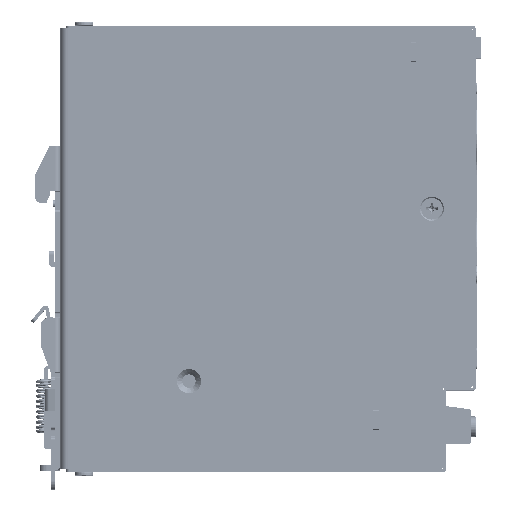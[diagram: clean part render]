
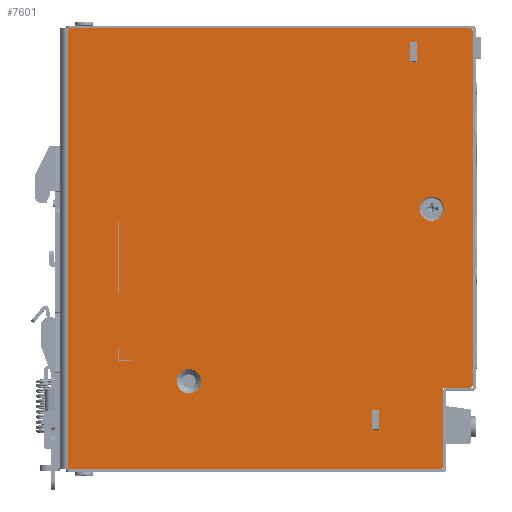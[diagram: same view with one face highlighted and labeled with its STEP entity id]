
A CAD part, top view. The second image highlights one B-rep face of the part: STEP entity #7601.
In plain terms, the highlighted planar face has unit normal (0, 0, 1).
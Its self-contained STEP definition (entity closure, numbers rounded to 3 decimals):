
#2546=DIRECTION('',(0.,-1.,0.));
#2547=VECTOR('',#2546,122.4);
#2548=CARTESIAN_POINT('',(0.5,61.2,20.));
#2549=LINE('',#2548,#2547);
#2564=CARTESIAN_POINT('',(112.1,60.2,20.));
#2565=DIRECTION('',(0.,0.,1.));
#2566=DIRECTION('',(1.,0.,0.));
#2567=AXIS2_PLACEMENT_3D('',#2564,#2565,#2566);
#2569=DIRECTION('',(0.,1.,0.));
#2570=VECTOR('',#2569,97.8);
#2571=CARTESIAN_POINT('',(113.1,-37.6,20.));
#2572=LINE('',#2571,#2570);
#2573=CARTESIAN_POINT('',(112.1,-37.6,20.));
#2574=DIRECTION('',(0.,0.,1.));
#2575=DIRECTION('',(0.,-1.,0.));
#2576=AXIS2_PLACEMENT_3D('',#2573,#2574,#2575);
#2578=DIRECTION('',(-1.,0.,0.));
#2579=VECTOR('',#2578,7.2);
#2580=CARTESIAN_POINT('',(112.1,-38.6,20.));
#2581=LINE('',#2580,#2579);
#2582=DIRECTION('',(0.,1.,0.));
#2583=VECTOR('',#2582,21.6);
#2584=CARTESIAN_POINT('',(104.9,-60.2,20.));
#2585=LINE('',#2584,#2583);
#2586=CARTESIAN_POINT('',(103.9,-60.2,20.));
#2587=DIRECTION('',(0.,0.,1.));
#2588=DIRECTION('',(0.,-1.,0.));
#2589=AXIS2_PLACEMENT_3D('',#2586,#2587,#2588);
#2591=DIRECTION('',(1.,0.,0.));
#2592=VECTOR('',#2591,103.4);
#2593=CARTESIAN_POINT('',(0.5,-61.2,20.));
#2594=LINE('',#2593,#2592);
#2595=DIRECTION('',(-1.,0.,0.));
#2596=VECTOR('',#2595,111.6);
#2597=CARTESIAN_POINT('',(112.1,61.2,20.));
#2598=LINE('',#2597,#2596);
#2599=CARTESIAN_POINT('',(101.7,11.1,20.));
#2600=DIRECTION('',(0.,0.,1.));
#2601=DIRECTION('',(-1.,0.,0.));
#2602=AXIS2_PLACEMENT_3D('',#2599,#2600,#2601);
#2604=CARTESIAN_POINT('',(101.7,11.1,20.));
#2605=DIRECTION('',(0.,0.,1.));
#2606=DIRECTION('',(1.,0.,0.));
#2607=AXIS2_PLACEMENT_3D('',#2604,#2605,#2606);
#2609=DIRECTION('',(0.,-1.,0.));
#2610=VECTOR('',#2609,5.6);
#2611=CARTESIAN_POINT('',(97.55,57.5,20.));
#2612=LINE('',#2611,#2610);
#2613=DIRECTION('',(1.,0.,0.));
#2614=VECTOR('',#2613,1.9);
#2615=CARTESIAN_POINT('',(95.65,57.5,20.));
#2616=LINE('',#2615,#2614);
#2617=DIRECTION('',(0.,1.,0.));
#2618=VECTOR('',#2617,5.6);
#2619=CARTESIAN_POINT('',(95.65,51.9,20.));
#2620=LINE('',#2619,#2618);
#2621=DIRECTION('',(-1.,0.,0.));
#2622=VECTOR('',#2621,1.9);
#2623=CARTESIAN_POINT('',(97.55,51.9,20.));
#2624=LINE('',#2623,#2622);
#2625=DIRECTION('',(0.,-1.,0.));
#2626=VECTOR('',#2625,5.6);
#2627=CARTESIAN_POINT('',(87.05,-44.8,20.));
#2628=LINE('',#2627,#2626);
#2629=DIRECTION('',(1.,0.,0.));
#2630=VECTOR('',#2629,1.9);
#2631=CARTESIAN_POINT('',(85.15,-44.8,20.));
#2632=LINE('',#2631,#2630);
#2633=DIRECTION('',(0.,1.,0.));
#2634=VECTOR('',#2633,5.6);
#2635=CARTESIAN_POINT('',(85.15,-50.4,20.));
#2636=LINE('',#2635,#2634);
#2637=DIRECTION('',(-1.,0.,0.));
#2638=VECTOR('',#2637,1.9);
#2639=CARTESIAN_POINT('',(87.05,-50.4,20.));
#2640=LINE('',#2639,#2638);
#2641=CARTESIAN_POINT('',(34.2,-36.8,20.));
#2642=DIRECTION('',(0.,0.,1.));
#2643=DIRECTION('',(-1.,0.,0.));
#2644=AXIS2_PLACEMENT_3D('',#2641,#2642,#2643);
#2646=CARTESIAN_POINT('',(34.2,-36.8,20.));
#2647=DIRECTION('',(0.,0.,1.));
#2648=DIRECTION('',(1.,0.,0.));
#2649=AXIS2_PLACEMENT_3D('',#2646,#2647,#2648);
#2651=DIRECTION('',(-1.,0.,0.));
#2652=VECTOR('',#2651,0.2);
#2653=CARTESIAN_POINT('',(14.7,7.3,20.));
#2654=LINE('',#2653,#2652);
#2655=DIRECTION('',(0.,-1.,0.));
#2656=VECTOR('',#2655,20.);
#2657=CARTESIAN_POINT('',(14.5,7.3,20.));
#2658=LINE('',#2657,#2656);
#2659=DIRECTION('',(1.,0.,0.));
#2660=VECTOR('',#2659,0.2);
#2661=CARTESIAN_POINT('',(14.5,-12.7,20.));
#2662=LINE('',#2661,#2660);
#2663=DIRECTION('',(0.,1.,0.));
#2664=VECTOR('',#2663,20.);
#2665=CARTESIAN_POINT('',(14.7,-12.7,20.));
#2666=LINE('',#2665,#2664);
#2667=DIRECTION('',(0.,1.,0.));
#2668=VECTOR('',#2667,0.2);
#2669=CARTESIAN_POINT('',(18.,-31.2,20.));
#2670=LINE('',#2669,#2668);
#2671=DIRECTION('',(-1.,0.,0.));
#2672=VECTOR('',#2671,3.3);
#2673=CARTESIAN_POINT('',(18.,-31.,20.));
#2674=LINE('',#2673,#2672);
#2675=DIRECTION('',(0.,1.,0.));
#2676=VECTOR('',#2675,3.3);
#2677=CARTESIAN_POINT('',(14.7,-31.,20.));
#2678=LINE('',#2677,#2676);
#2679=DIRECTION('',(-1.,0.,0.));
#2680=VECTOR('',#2679,0.2);
#2681=CARTESIAN_POINT('',(14.7,-27.7,20.));
#2682=LINE('',#2681,#2680);
#2683=DIRECTION('',(0.,-1.,0.));
#2684=VECTOR('',#2683,3.5);
#2685=CARTESIAN_POINT('',(14.5,-27.7,20.));
#2686=LINE('',#2685,#2684);
#2687=DIRECTION('',(1.,0.,0.));
#2688=VECTOR('',#2687,3.5);
#2689=CARTESIAN_POINT('',(14.5,-31.2,20.));
#2690=LINE('',#2689,#2688);
#3078=CARTESIAN_POINT('',(0.5,61.2,20.));
#3079=CARTESIAN_POINT('',(0.5,-61.2,20.));
#3080=VERTEX_POINT('',#3078);
#3081=VERTEX_POINT('',#3079);
#3347=CARTESIAN_POINT('',(104.9,-38.6,20.));
#3349=VERTEX_POINT('',#3347);
#3362=CARTESIAN_POINT('',(87.05,-44.8,20.));
#3363=CARTESIAN_POINT('',(87.05,-50.4,20.));
#3364=VERTEX_POINT('',#3362);
#3365=VERTEX_POINT('',#3363);
#3366=CARTESIAN_POINT('',(85.15,-50.4,20.));
#3367=VERTEX_POINT('',#3366);
#3368=CARTESIAN_POINT('',(85.15,-44.8,20.));
#3369=VERTEX_POINT('',#3368);
#3378=CARTESIAN_POINT('',(97.55,57.5,20.));
#3379=CARTESIAN_POINT('',(97.55,51.9,20.));
#3380=VERTEX_POINT('',#3378);
#3381=VERTEX_POINT('',#3379);
#3382=CARTESIAN_POINT('',(95.65,51.9,20.));
#3383=VERTEX_POINT('',#3382);
#3384=CARTESIAN_POINT('',(95.65,57.5,20.));
#3385=VERTEX_POINT('',#3384);
#3678=CARTESIAN_POINT('',(113.1,60.2,20.));
#3679=CARTESIAN_POINT('',(112.1,61.2,20.));
#3680=VERTEX_POINT('',#3678);
#3681=VERTEX_POINT('',#3679);
#3696=CARTESIAN_POINT('',(113.1,-37.6,20.));
#3697=VERTEX_POINT('',#3696);
#3704=CARTESIAN_POINT('',(112.1,-38.6,20.));
#3705=VERTEX_POINT('',#3704);
#3714=CARTESIAN_POINT('',(103.9,-61.2,20.));
#3715=VERTEX_POINT('',#3714);
#3716=CARTESIAN_POINT('',(104.9,-60.2,20.));
#3717=VERTEX_POINT('',#3716);
#3880=CARTESIAN_POINT('',(98.35,11.1,20.));
#3881=CARTESIAN_POINT('',(105.05,11.1,20.));
#3882=VERTEX_POINT('',#3880);
#3883=VERTEX_POINT('',#3881);
#3888=CARTESIAN_POINT('',(30.84,-36.8,20.));
#3889=CARTESIAN_POINT('',(37.56,-36.8,20.));
#3890=VERTEX_POINT('',#3888);
#3891=VERTEX_POINT('',#3889);
#3916=CARTESIAN_POINT('',(14.7,7.3,20.));
#3917=CARTESIAN_POINT('',(14.5,7.3,20.));
#3918=VERTEX_POINT('',#3916);
#3919=VERTEX_POINT('',#3917);
#3920=CARTESIAN_POINT('',(14.5,-12.7,20.));
#3921=VERTEX_POINT('',#3920);
#3922=CARTESIAN_POINT('',(14.7,-12.7,20.));
#3923=VERTEX_POINT('',#3922);
#3924=CARTESIAN_POINT('',(18.,-31.2,20.));
#3925=CARTESIAN_POINT('',(18.,-31.,20.));
#3926=VERTEX_POINT('',#3924);
#3927=VERTEX_POINT('',#3925);
#3928=CARTESIAN_POINT('',(14.7,-31.,20.));
#3929=VERTEX_POINT('',#3928);
#3930=CARTESIAN_POINT('',(14.7,-27.7,20.));
#3931=VERTEX_POINT('',#3930);
#3932=CARTESIAN_POINT('',(14.5,-27.7,20.));
#3933=VERTEX_POINT('',#3932);
#3934=CARTESIAN_POINT('',(14.5,-31.2,20.));
#3935=VERTEX_POINT('',#3934);
#7521=CARTESIAN_POINT('',(-1.5,-61.2,20.));
#7522=DIRECTION('',(0.,0.,1.));
#7523=DIRECTION('',(0.,-1.,0.));
#7524=AXIS2_PLACEMENT_3D('',#7521,#7522,#7523);
#7525=PLANE('',#7524);
#7527=ORIENTED_EDGE('',*,*,#7526,.F.);
#7529=ORIENTED_EDGE('',*,*,#7528,.F.);
#7531=ORIENTED_EDGE('',*,*,#7530,.F.);
#7533=ORIENTED_EDGE('',*,*,#7532,.T.);
#7535=ORIENTED_EDGE('',*,*,#7534,.F.);
#7537=ORIENTED_EDGE('',*,*,#7536,.F.);
#7539=ORIENTED_EDGE('',*,*,#7538,.F.);
#7540=ORIENTED_EDGE('',*,*,#7512,.F.);
#7542=ORIENTED_EDGE('',*,*,#7541,.F.);
#7543=EDGE_LOOP('',(#7527,#7529,#7531,#7533,#7535,#7537,#7539,#7540,#7542));
#7544=FACE_OUTER_BOUND('',#7543,.F.);
#7546=ORIENTED_EDGE('',*,*,#7545,.T.);
#7548=ORIENTED_EDGE('',*,*,#7547,.T.);
#7549=EDGE_LOOP('',(#7546,#7548));
#7550=FACE_BOUND('',#7549,.F.);
#7552=ORIENTED_EDGE('',*,*,#7551,.F.);
#7554=ORIENTED_EDGE('',*,*,#7553,.F.);
#7556=ORIENTED_EDGE('',*,*,#7555,.F.);
#7558=ORIENTED_EDGE('',*,*,#7557,.F.);
#7559=EDGE_LOOP('',(#7552,#7554,#7556,#7558));
#7560=FACE_BOUND('',#7559,.F.);
#7562=ORIENTED_EDGE('',*,*,#7561,.F.);
#7564=ORIENTED_EDGE('',*,*,#7563,.F.);
#7566=ORIENTED_EDGE('',*,*,#7565,.F.);
#7568=ORIENTED_EDGE('',*,*,#7567,.F.);
#7569=EDGE_LOOP('',(#7562,#7564,#7566,#7568));
#7570=FACE_BOUND('',#7569,.F.);
#7572=ORIENTED_EDGE('',*,*,#7571,.T.);
#7574=ORIENTED_EDGE('',*,*,#7573,.T.);
#7575=EDGE_LOOP('',(#7572,#7574));
#7576=FACE_BOUND('',#7575,.F.);
#7578=ORIENTED_EDGE('',*,*,#7577,.T.);
#7580=ORIENTED_EDGE('',*,*,#7579,.T.);
#7582=ORIENTED_EDGE('',*,*,#7581,.T.);
#7584=ORIENTED_EDGE('',*,*,#7583,.T.);
#7585=EDGE_LOOP('',(#7578,#7580,#7582,#7584));
#7586=FACE_BOUND('',#7585,.F.);
#7588=ORIENTED_EDGE('',*,*,#7587,.T.);
#7590=ORIENTED_EDGE('',*,*,#7589,.T.);
#7592=ORIENTED_EDGE('',*,*,#7591,.T.);
#7594=ORIENTED_EDGE('',*,*,#7593,.T.);
#7596=ORIENTED_EDGE('',*,*,#7595,.T.);
#7598=ORIENTED_EDGE('',*,*,#7597,.T.);
#7599=EDGE_LOOP('',(#7588,#7590,#7592,#7594,#7596,#7598));
#7600=FACE_BOUND('',#7599,.F.);
#2568=CIRCLE('',#2567,1.);
#2577=CIRCLE('',#2576,1.);
#2590=CIRCLE('',#2589,1.);
#2603=CIRCLE('',#2602,3.35);
#2608=CIRCLE('',#2607,3.35);
#2645=CIRCLE('',#2644,3.36);
#2650=CIRCLE('',#2649,3.36);
#7512=EDGE_CURVE('',#3080,#3081,#2549,.T.);
#7526=EDGE_CURVE('',#3680,#3681,#2568,.T.);
#7528=EDGE_CURVE('',#3697,#3680,#2572,.T.);
#7530=EDGE_CURVE('',#3705,#3697,#2577,.T.);
#7532=EDGE_CURVE('',#3705,#3349,#2581,.T.);
#7534=EDGE_CURVE('',#3717,#3349,#2585,.T.);
#7536=EDGE_CURVE('',#3715,#3717,#2590,.T.);
#7538=EDGE_CURVE('',#3081,#3715,#2594,.T.);
#7541=EDGE_CURVE('',#3681,#3080,#2598,.T.);
#7545=EDGE_CURVE('',#3882,#3883,#2603,.T.);
#7547=EDGE_CURVE('',#3883,#3882,#2608,.T.);
#7551=EDGE_CURVE('',#3380,#3381,#2612,.T.);
#7553=EDGE_CURVE('',#3385,#3380,#2616,.T.);
#7555=EDGE_CURVE('',#3383,#3385,#2620,.T.);
#7557=EDGE_CURVE('',#3381,#3383,#2624,.T.);
#7561=EDGE_CURVE('',#3364,#3365,#2628,.T.);
#7563=EDGE_CURVE('',#3369,#3364,#2632,.T.);
#7565=EDGE_CURVE('',#3367,#3369,#2636,.T.);
#7567=EDGE_CURVE('',#3365,#3367,#2640,.T.);
#7571=EDGE_CURVE('',#3890,#3891,#2645,.T.);
#7573=EDGE_CURVE('',#3891,#3890,#2650,.T.);
#7577=EDGE_CURVE('',#3918,#3919,#2654,.T.);
#7579=EDGE_CURVE('',#3919,#3921,#2658,.T.);
#7581=EDGE_CURVE('',#3921,#3923,#2662,.T.);
#7583=EDGE_CURVE('',#3923,#3918,#2666,.T.);
#7587=EDGE_CURVE('',#3926,#3927,#2670,.T.);
#7589=EDGE_CURVE('',#3927,#3929,#2674,.T.);
#7591=EDGE_CURVE('',#3929,#3931,#2678,.T.);
#7593=EDGE_CURVE('',#3931,#3933,#2682,.T.);
#7595=EDGE_CURVE('',#3933,#3935,#2686,.T.);
#7597=EDGE_CURVE('',#3935,#3926,#2690,.T.);
#7601=ADVANCED_FACE('',(#7544,#7550,#7560,#7570,#7576,#7586,#7600),#7525,.T.);
